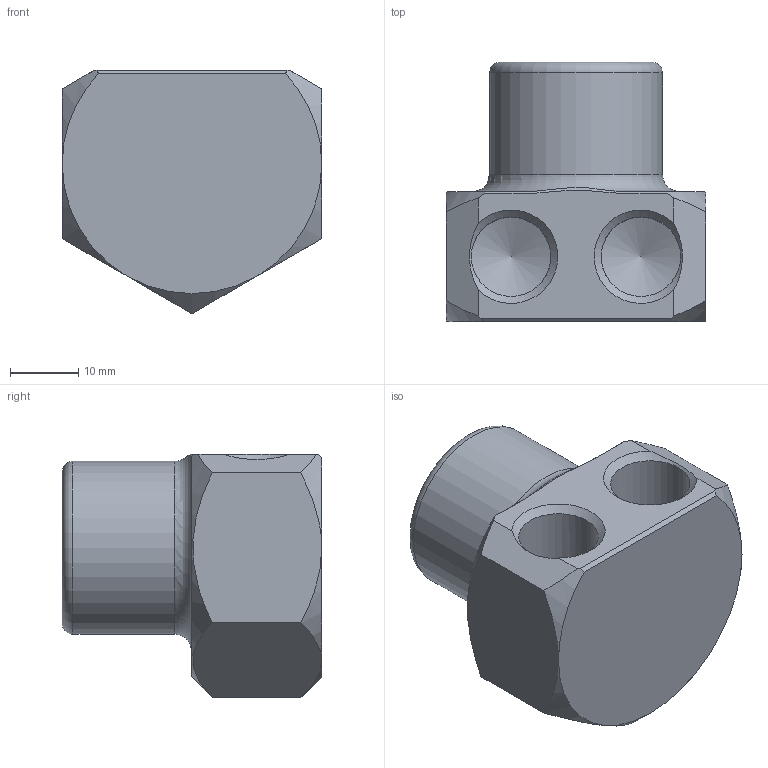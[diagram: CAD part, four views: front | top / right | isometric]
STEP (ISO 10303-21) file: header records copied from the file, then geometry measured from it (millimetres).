
FILE_DESCRIPTION(/* description */ (''),/* implementation_level */ '2;1');
FILE_NAME(/* name */ 'C:/Users/drich/Desktop/ET3814H v3.step',/* time_stamp */ '2019-11-18T13:38:47-06:00',/* author */ (''),/* organization */ (''),/* preprocessor_version */ 'ST-DEVELOPER v18',/* originating_system */ 'Autodesk Translation Framework v8.12.0.6',/* authorisation */ '');
FILE_SCHEMA (('AUTOMOTIVE_DESIGN { 1 0 10303 214 3 1 1 }'));
Length unit declared in the file: inch
Products named in the file (2): ET3814H; ET3814H_1
Assembly tree (1 placements, depth 2):
  ET3814H
    ET3814H_1
Bounding box: 38.1 x 38.1 x 35.71 mm (x, y, z)
Volume: 22954.6 mm3; surface area: 8481.8 mm2
Topology: 1 solids, 1 shells, 41 faces, 114 edges, 73 vertices
Faces by surface type: plane 14, cone 12, cylinder 10, bspline 3, torus 2
Full cylindrical faces by diameter (mm): 8.509 x1, 11.668 x2, 15.173 x1, 25.4 x1
Entity records: 1536 total; most frequent: CARTESIAN_POINT 483, ORIENTED_EDGE 224, DIRECTION 204, EDGE_CURVE 112, AXIS2_PLACEMENT_3D 84, VERTEX_POINT 73, EDGE_LOOP 45, FACE_OUTER_BOUND 41
